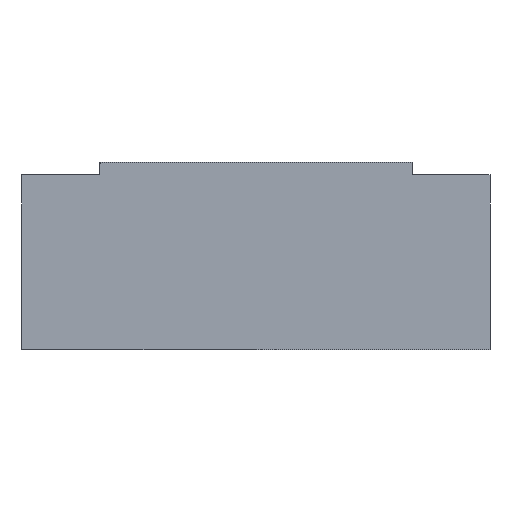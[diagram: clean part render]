
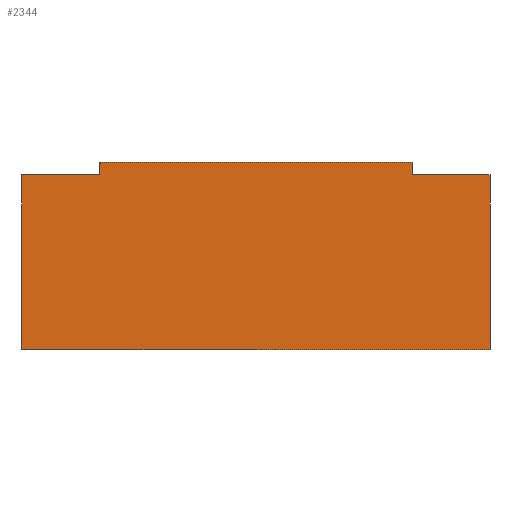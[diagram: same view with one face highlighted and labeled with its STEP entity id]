
A CAD part, left-side view. The second image highlights one B-rep face of the part: STEP entity #2344.
In plain terms, the highlighted planar face has unit normal (-1, 0, 0).
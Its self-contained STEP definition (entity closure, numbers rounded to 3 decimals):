
#41 = DIRECTION ( 'NONE',  ( 0., 0., 1. ) ) ;
#80 = ORIENTED_EDGE ( 'NONE', *, *, #2333, .F. ) ;
#125 = CARTESIAN_POINT ( 'NONE',  ( -88., -37.5, 30. ) ) ;
#134 = VERTEX_POINT ( 'NONE', #315 ) ;
#144 = VERTEX_POINT ( 'NONE', #3005 ) ;
#176 = ORIENTED_EDGE ( 'NONE', *, *, #1945, .T. ) ;
#188 = EDGE_LOOP ( 'NONE', ( #80, #1405, #2657, #2272, #630, #965, #2361, #176 ) ) ;
#215 = CARTESIAN_POINT ( 'NONE',  ( -88., -25., 28. ) ) ;
#233 = EDGE_CURVE ( 'NONE', #144, #440, #849, .T. ) ;
#238 = CARTESIAN_POINT ( 'NONE',  ( -88., -25., 28. ) ) ;
#258 = VECTOR ( 'NONE', #2719, 1000. ) ;
#288 = VERTEX_POINT ( 'NONE', #2270 ) ;
#304 = CARTESIAN_POINT ( 'NONE',  ( -88., -37.5, 28. ) ) ;
#315 = CARTESIAN_POINT ( 'NONE',  ( -88., -25., 30. ) ) ;
#376 = VERTEX_POINT ( 'NONE', #304 ) ;
#389 = VECTOR ( 'NONE', #2869, 1000. ) ;
#440 = VERTEX_POINT ( 'NONE', #2016 ) ;
#490 = EDGE_CURVE ( 'NONE', #144, #1761, #1247, .T. ) ;
#580 = VECTOR ( 'NONE', #1947, 1000. ) ;
#630 = ORIENTED_EDGE ( 'NONE', *, *, #2566, .F. ) ;
#680 = EDGE_CURVE ( 'NONE', #288, #134, #3002, .T. ) ;
#734 = VERTEX_POINT ( 'NONE', #215 ) ;
#849 = LINE ( 'NONE', #3047, #3107 ) ;
#880 = PLANE ( 'NONE',  #1880 ) ;
#900 = LINE ( 'NONE', #2000, #2960 ) ;
#920 = LINE ( 'NONE', #2445, #580 ) ;
#934 = VERTEX_POINT ( 'NONE', #2798 ) ;
#965 = ORIENTED_EDGE ( 'NONE', *, *, #490, .F. ) ;
#1063 = VECTOR ( 'NONE', #2964, 1000. ) ;
#1091 = CARTESIAN_POINT ( 'NONE',  ( -88., -37.5, 30. ) ) ;
#1105 = DIRECTION ( 'NONE',  ( 0., 0., -1. ) ) ;
#1177 = VECTOR ( 'NONE', #1587, 1000. ) ;
#1247 = LINE ( 'NONE', #2586, #1177 ) ;
#1346 = LINE ( 'NONE', #2234, #258 ) ;
#1405 = ORIENTED_EDGE ( 'NONE', *, *, #2986, .F. ) ;
#1417 = DIRECTION ( 'NONE',  ( 0., -1., 0. ) ) ;
#1587 = DIRECTION ( 'NONE',  ( 0., -1., 0. ) ) ;
#1761 = VERTEX_POINT ( 'NONE', #1852 ) ;
#1849 = DIRECTION ( 'NONE',  ( 1., 0., 0. ) ) ;
#1852 = CARTESIAN_POINT ( 'NONE',  ( -88., 25., 28. ) ) ;
#1868 = VECTOR ( 'NONE', #1417, 1000. ) ;
#1880 = AXIS2_PLACEMENT_3D ( 'NONE', #125, #1849, #1105 ) ;
#1945 = EDGE_CURVE ( 'NONE', #440, #934, #920, .T. ) ;
#1947 = DIRECTION ( 'NONE',  ( 0., -1., 0. ) ) ;
#2000 = CARTESIAN_POINT ( 'NONE',  ( -88., 25., 28. ) ) ;
#2016 = CARTESIAN_POINT ( 'NONE',  ( -88., 37.5, 0. ) ) ;
#2234 = CARTESIAN_POINT ( 'NONE',  ( -88., -25., 28. ) ) ;
#2270 = CARTESIAN_POINT ( 'NONE',  ( -88., 25., 30. ) ) ;
#2272 = ORIENTED_EDGE ( 'NONE', *, *, #680, .F. ) ;
#2327 = FACE_OUTER_BOUND ( 'NONE', #188, .T. ) ;
#2333 = EDGE_CURVE ( 'NONE', #376, #934, #2519, .T. ) ;
#2344 = ADVANCED_FACE ( 'NONE', ( #2327 ), #880, .F. ) ;
#2361 = ORIENTED_EDGE ( 'NONE', *, *, #233, .T. ) ;
#2445 = CARTESIAN_POINT ( 'NONE',  ( -88., -37.5, 0. ) ) ;
#2519 = LINE ( 'NONE', #1091, #389 ) ;
#2522 = EDGE_CURVE ( 'NONE', #134, #734, #3122, .T. ) ;
#2533 = DIRECTION ( 'NONE',  ( 0., 0., -1. ) ) ;
#2566 = EDGE_CURVE ( 'NONE', #1761, #288, #900, .T. ) ;
#2586 = CARTESIAN_POINT ( 'NONE',  ( -88., 40.483, 28. ) ) ;
#2657 = ORIENTED_EDGE ( 'NONE', *, *, #2522, .F. ) ;
#2719 = DIRECTION ( 'NONE',  ( 0., -1., 0. ) ) ;
#2798 = CARTESIAN_POINT ( 'NONE',  ( -88., -37.5, 0. ) ) ;
#2869 = DIRECTION ( 'NONE',  ( 0., 0., -1. ) ) ;
#2960 = VECTOR ( 'NONE', #41, 1000. ) ;
#2964 = DIRECTION ( 'NONE',  ( 0., 0., -1. ) ) ;
#2986 = EDGE_CURVE ( 'NONE', #734, #376, #1346, .T. ) ;
#3002 = LINE ( 'NONE', #3166, #1868 ) ;
#3005 = CARTESIAN_POINT ( 'NONE',  ( -88., 37.5, 28. ) ) ;
#3047 = CARTESIAN_POINT ( 'NONE',  ( -88., 37.5, 30. ) ) ;
#3107 = VECTOR ( 'NONE', #2533, 1000. ) ;
#3122 = LINE ( 'NONE', #238, #1063 ) ;
#3166 = CARTESIAN_POINT ( 'NONE',  ( -88., -37.5, 30. ) ) ;
